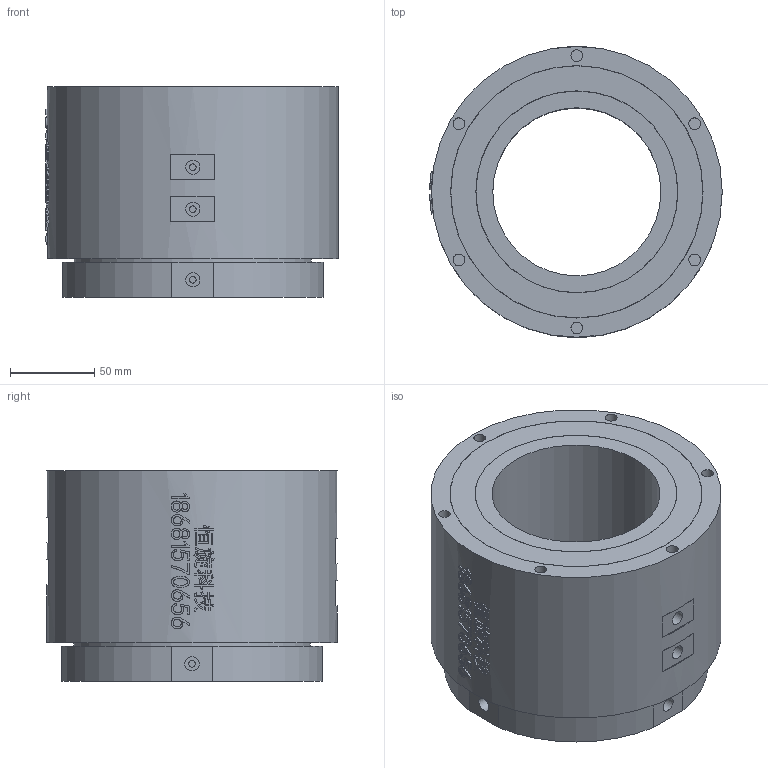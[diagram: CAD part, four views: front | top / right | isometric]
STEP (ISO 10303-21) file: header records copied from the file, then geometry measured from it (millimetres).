
FILE_DESCRIPTION(/* description */ (''),/* implementation_level */ '2;1');
FILE_NAME(/* name */ 'HQ0401D100模型.stp',/* time_stamp */ '2024-07-16T15:20:16+08:00',/* author */ (''),/* organization */ (''),/* preprocessor_version */ 'ST-DEVELOPER v16.7',/* originating_system */ 'SIEMENS PLM Software NX 12.0',/* authorisation */ '');
FILE_SCHEMA (('AUTOMOTIVE_DESIGN { 1 0 10303 214 3 1 1 1 }'));
Length unit declared in the file: millimetre
Products named in the file (1): 861334F88FD9p2z6
Bounding box: 173.99 x 173 x 125.5 mm (x, y, z)
Volume: 1848744.3 mm3; surface area: 160962.7 mm2
Topology: 1 solids, 1 shells, 418 faces, 1002 edges, 668 vertices
Faces by surface type: plane 175, extrusion 160, cylinder 56, bspline 27
Full cylindrical faces by diameter (mm): 4 x10, 4.1 x2, 4.2 x2, 4.3 x2, 7 x10, 8.5 x8, 100 x1, 120 x1, 120.2 x1, 141 x1, 150 x1, 150.2 x1, 173 x1
Entity records: 17024 total; most frequent: CARTESIAN_POINT 8077, ORIENTED_EDGE 1916, DIRECTION 1360, EDGE_CURVE 958, VERTEX_POINT 668, VECTOR 566, B_SPLINE_CURVE_WITH_KNOTS 547, EDGE_LOOP 546
